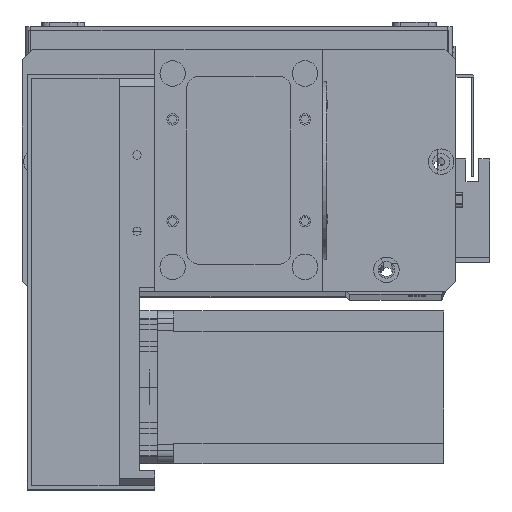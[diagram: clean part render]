
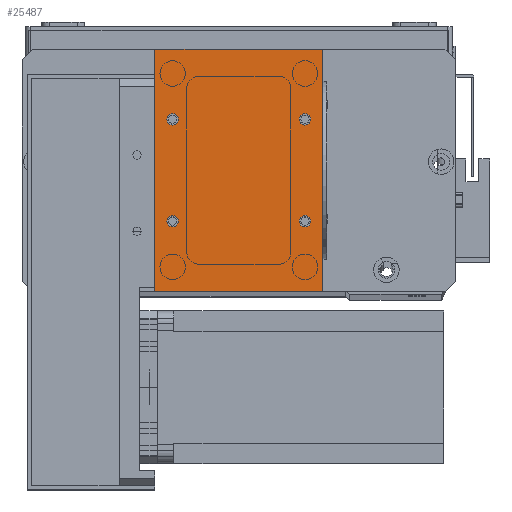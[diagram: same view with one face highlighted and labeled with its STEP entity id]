
A CAD part, top view. The second image highlights one B-rep face of the part: STEP entity #25487.
In plain terms, the highlighted planar face has unit normal (0, 0, 1).
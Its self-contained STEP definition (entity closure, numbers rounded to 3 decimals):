
#208 = DIRECTION ( 'NONE',  ( 0., 0., 1. ) ) ;
#289 = CIRCLE ( 'NONE', #5950, 2.25 ) ;
#314 = DIRECTION ( 'NONE',  ( 0., -1., 0. ) ) ;
#365 = ORIENTED_EDGE ( 'NONE', *, *, #5433, .F. ) ;
#458 = CARTESIAN_POINT ( 'NONE',  ( 0., 0., 2. ) ) ;
#823 = PLANE ( 'NONE',  #3091 ) ;
#943 = DIRECTION ( 'NONE',  ( 0., 0., -1. ) ) ;
#1103 = DIRECTION ( 'NONE',  ( 1., 0., 0. ) ) ;
#1282 = AXIS2_PLACEMENT_3D ( 'NONE', #6658, #24107, #9123 ) ;
#1874 = CARTESIAN_POINT ( 'NONE',  ( 9.25, 27.5, 2. ) ) ;
#2312 = CARTESIAN_POINT ( 'NONE',  ( 66., 95., 2. ) ) ;
#2665 = CARTESIAN_POINT ( 'NONE',  ( 0., 95., 2. ) ) ;
#2764 = CARTESIAN_POINT ( 'NONE',  ( 4.75, 67.5, 2. ) ) ;
#3091 = AXIS2_PLACEMENT_3D ( 'NONE', #8365, #943, #18449 ) ;
#3574 = DIRECTION ( 'NONE',  ( 0., 0., 1. ) ) ;
#3602 = EDGE_LOOP ( 'NONE', ( #6100, #8860, #29010, #19358 ) ) ;
#3831 = AXIS2_PLACEMENT_3D ( 'NONE', #13675, #31157, #16214 ) ;
#4053 = EDGE_CURVE ( 'NONE', #7182, #21290, #16908, .T. ) ;
#4102 = EDGE_CURVE ( 'NONE', #17784, #21636, #16155, .T. ) ;
#4156 = FACE_BOUND ( 'NONE', #6946, .T. ) ;
#4445 = EDGE_CURVE ( 'NONE', #21290, #7182, #18472, .T. ) ;
#4758 = DIRECTION ( 'NONE',  ( 0., 0., 1. ) ) ;
#4780 = EDGE_CURVE ( 'NONE', #8481, #17486, #17256, .T. ) ;
#5161 = DIRECTION ( 'NONE',  ( 0., 0., 1. ) ) ;
#5203 = EDGE_CURVE ( 'NONE', #26840, #17784, #26175, .T. ) ;
#5433 = EDGE_CURVE ( 'NONE', #11864, #10335, #24998, .T. ) ;
#5470 = AXIS2_PLACEMENT_3D ( 'NONE', #31006, #16079, #1103 ) ;
#5530 = EDGE_LOOP ( 'NONE', ( #365, #25356 ) ) ;
#5950 = AXIS2_PLACEMENT_3D ( 'NONE', #20125, #5161, #22592 ) ;
#6100 = ORIENTED_EDGE ( 'NONE', *, *, #4102, .T. ) ;
#6658 = CARTESIAN_POINT ( 'NONE',  ( 7., 27.5, 2. ) ) ;
#6724 = CARTESIAN_POINT ( 'NONE',  ( 66., 0., 2. ) ) ;
#6946 = EDGE_LOOP ( 'NONE', ( #17988, #31279 ) ) ;
#7182 = VERTEX_POINT ( 'NONE', #1874 ) ;
#7351 = CIRCLE ( 'NONE', #14942, 2.25 ) ;
#7747 = EDGE_CURVE ( 'NONE', #10335, #11864, #10071, .T. ) ;
#8365 = CARTESIAN_POINT ( 'NONE',  ( 0., 0., 2. ) ) ;
#8481 = VERTEX_POINT ( 'NONE', #2764 ) ;
#8842 = DIRECTION ( 'NONE',  ( 1., 0., 0. ) ) ;
#8860 = ORIENTED_EDGE ( 'NONE', *, *, #19080, .T. ) ;
#9035 = ORIENTED_EDGE ( 'NONE', *, *, #20915, .F. ) ;
#9123 = DIRECTION ( 'NONE',  ( 1., 0., 0. ) ) ;
#10071 = CIRCLE ( 'NONE', #28140, 2.25 ) ;
#10335 = VERTEX_POINT ( 'NONE', #16548 ) ;
#10675 = VECTOR ( 'NONE', #26678, 1000. ) ;
#10757 = FACE_BOUND ( 'NONE', #5530, .T. ) ;
#10860 = VECTOR ( 'NONE', #8842, 1000. ) ;
#11547 = FACE_BOUND ( 'NONE', #16689, .T. ) ;
#11864 = VERTEX_POINT ( 'NONE', #19689 ) ;
#12119 = EDGE_LOOP ( 'NONE', ( #21943, #9035 ) ) ;
#12356 = AXIS2_PLACEMENT_3D ( 'NONE', #18548, #3574, #21032 ) ;
#12424 = CARTESIAN_POINT ( 'NONE',  ( 9.25, 67.5, 2. ) ) ;
#12920 = VECTOR ( 'NONE', #22597, 1000. ) ;
#13675 = CARTESIAN_POINT ( 'NONE',  ( 59., 67.5, 2. ) ) ;
#14241 = CARTESIAN_POINT ( 'NONE',  ( 7., 67.5, 2. ) ) ;
#14942 = AXIS2_PLACEMENT_3D ( 'NONE', #14241, #31714, #16774 ) ;
#15199 = CARTESIAN_POINT ( 'NONE',  ( 7., 27.5, 2. ) ) ;
#15269 = CARTESIAN_POINT ( 'NONE',  ( 61.25, 27.5, 2. ) ) ;
#15304 = CARTESIAN_POINT ( 'NONE',  ( 0., 0., 2. ) ) ;
#15341 = VECTOR ( 'NONE', #314, 1000. ) ;
#15814 = VERTEX_POINT ( 'NONE', #15269 ) ;
#16079 = DIRECTION ( 'NONE',  ( 0., 0., 1. ) ) ;
#16155 = LINE ( 'NONE', #15304, #15341 ) ;
#16214 = DIRECTION ( 'NONE',  ( 1., 0., 0. ) ) ;
#16548 = CARTESIAN_POINT ( 'NONE',  ( 56.75, 67.5, 2. ) ) ;
#16689 = EDGE_LOOP ( 'NONE', ( #24016, #27523 ) ) ;
#16774 = DIRECTION ( 'NONE',  ( 1., 0., 0. ) ) ;
#16908 = CIRCLE ( 'NONE', #30979, 2.25 ) ;
#17256 = CIRCLE ( 'NONE', #12356, 2.25 ) ;
#17443 = VERTEX_POINT ( 'NONE', #29667 ) ;
#17444 = FACE_BOUND ( 'NONE', #12119, .T. ) ;
#17486 = VERTEX_POINT ( 'NONE', #12424 ) ;
#17721 = DIRECTION ( 'NONE',  ( 1., 0., 0. ) ) ;
#17784 = VERTEX_POINT ( 'NONE', #21035 ) ;
#17909 = CARTESIAN_POINT ( 'NONE',  ( 4.75, 27.5, 2. ) ) ;
#17988 = ORIENTED_EDGE ( 'NONE', *, *, #4053, .F. ) ;
#18155 = LINE ( 'NONE', #6724, #10675 ) ;
#18449 = DIRECTION ( 'NONE',  ( -1., 0., 0. ) ) ;
#18472 = CIRCLE ( 'NONE', #1282, 2.25 ) ;
#18548 = CARTESIAN_POINT ( 'NONE',  ( 7., 67.5, 2. ) ) ;
#19080 = EDGE_CURVE ( 'NONE', #21636, #28400, #30007, .T. ) ;
#19358 = ORIENTED_EDGE ( 'NONE', *, *, #5203, .T. ) ;
#19689 = CARTESIAN_POINT ( 'NONE',  ( 61.25, 67.5, 2. ) ) ;
#19736 = CARTESIAN_POINT ( 'NONE',  ( 59., 67.5, 2. ) ) ;
#19797 = EDGE_CURVE ( 'NONE', #28400, #26840, #18155, .T. ) ;
#20125 = CARTESIAN_POINT ( 'NONE',  ( 59., 27.5, 2. ) ) ;
#20915 = EDGE_CURVE ( 'NONE', #17443, #15814, #28590, .T. ) ;
#21032 = DIRECTION ( 'NONE',  ( 1., 0., 0. ) ) ;
#21035 = CARTESIAN_POINT ( 'NONE',  ( 0., 95., 2. ) ) ;
#21290 = VERTEX_POINT ( 'NONE', #17909 ) ;
#21636 = VERTEX_POINT ( 'NONE', #458 ) ;
#21943 = ORIENTED_EDGE ( 'NONE', *, *, #23430, .F. ) ;
#22189 = DIRECTION ( 'NONE',  ( 1., 0., 0. ) ) ;
#22592 = DIRECTION ( 'NONE',  ( 1., 0., 0. ) ) ;
#22597 = DIRECTION ( 'NONE',  ( -1., 0., 0. ) ) ;
#23220 = EDGE_CURVE ( 'NONE', #17486, #8481, #7351, .T. ) ;
#23430 = EDGE_CURVE ( 'NONE', #15814, #17443, #289, .T. ) ;
#23786 = CARTESIAN_POINT ( 'NONE',  ( 0., 0., 2. ) ) ;
#24016 = ORIENTED_EDGE ( 'NONE', *, *, #23220, .F. ) ;
#24107 = DIRECTION ( 'NONE',  ( 0., 0., 1. ) ) ;
#24998 = CIRCLE ( 'NONE', #3831, 2.25 ) ;
#25356 = ORIENTED_EDGE ( 'NONE', *, *, #7747, .F. ) ;
#25487 = ADVANCED_FACE ( 'NONE', ( #11547, #10757, #17444, #4156, #29904 ), #823, .F. ) ;
#26158 = CARTESIAN_POINT ( 'NONE',  ( 66., 0., 2. ) ) ;
#26175 = LINE ( 'NONE', #2665, #12920 ) ;
#26678 = DIRECTION ( 'NONE',  ( 0., 1., 0. ) ) ;
#26840 = VERTEX_POINT ( 'NONE', #2312 ) ;
#27523 = ORIENTED_EDGE ( 'NONE', *, *, #4780, .F. ) ;
#28140 = AXIS2_PLACEMENT_3D ( 'NONE', #19736, #4758, #22189 ) ;
#28400 = VERTEX_POINT ( 'NONE', #26158 ) ;
#28590 = CIRCLE ( 'NONE', #5470, 2.25 ) ;
#29010 = ORIENTED_EDGE ( 'NONE', *, *, #19797, .T. ) ;
#29667 = CARTESIAN_POINT ( 'NONE',  ( 56.75, 27.5, 2. ) ) ;
#29904 = FACE_OUTER_BOUND ( 'NONE', #3602, .T. ) ;
#30007 = LINE ( 'NONE', #23786, #10860 ) ;
#30979 = AXIS2_PLACEMENT_3D ( 'NONE', #15199, #208, #17721 ) ;
#31006 = CARTESIAN_POINT ( 'NONE',  ( 59., 27.5, 2. ) ) ;
#31157 = DIRECTION ( 'NONE',  ( 0., 0., 1. ) ) ;
#31279 = ORIENTED_EDGE ( 'NONE', *, *, #4445, .F. ) ;
#31714 = DIRECTION ( 'NONE',  ( 0., 0., 1. ) ) ;
